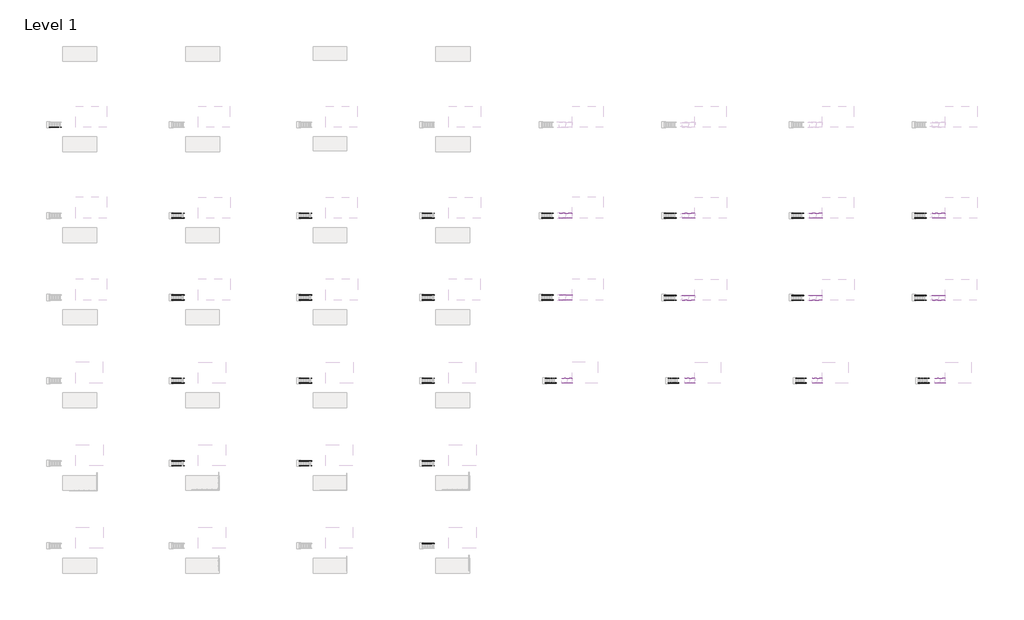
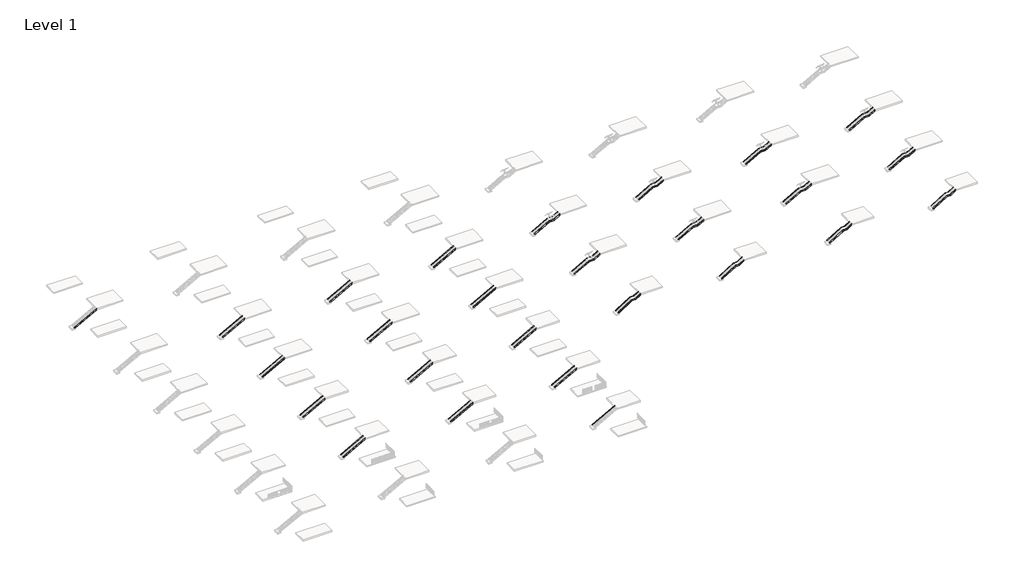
# One storey, part 25 of 26: 98 members.
"""IFC4 building model written with IfcOpenShell, lengths in millimetres."""

from ifc_helpers import new_model, si_unit, frame, origin, place, context, project, spatial, polyline, outline, extrude, element, save

model = new_model("IFC4")

# Units and contexts
model_context = context("Model", 3, world=origin())
ifc_project = project(units=[si_unit("LENGTHUNIT", "METRE", prefix="MILLI")], contexts=[model_context])

# Site, building, storey
site = spatial("IfcSite", under=ifc_project)
building = spatial("IfcBuilding", under=site)
storey = spatial("IfcBuildingStorey", under=building, Name="Level 1", Elevation=0.0)

# Members
placement = place(None, origin())
element("IfcMember", 1, ObjectType="Stringer - 2\" Width", at=placement, inside=storey, context=model_context, shape_type="SweptSolid", body=[
    extrude(outline(polyline([(177.1989729, -14498.2569957), (0.0, -14498.2569957), (0.0, -14213.1213612), (2753.9260175, -9164.2569957), (3086.6535184, -9164.2569957), (177.1989729, -14498.2569957)])), frame((0.0, 15795.2395941, 0.0), z_axis=(0.0, 1.0, 0.0), x_axis=(0.0, 0.0, 1.0)), (0.0, 0.0, 1.0), 50.8),
])
element("IfcMember", 2, ObjectType="Stringer - 2\" Width", at=placement, inside=storey, context=model_context, shape_type="SweptSolid", body=[
    extrude(outline(polyline([(177.1989729, 10178.7167764), (0.0, 10178.7167764), (0.0, 10463.8524109), (2753.9260175, 15512.7167764), (3086.6535184, 15512.7167764), (177.1989729, 10178.7167764)])), frame((0.0, -51279.2426165, 0.0), z_axis=(0.0, 1.0, 0.0), x_axis=(0.0, 0.0, 1.0)), (0.0, 0.0, 1.0), 50.8),
])
element("IfcMember", 3, ObjectType="Stringer - 2\" Width", at=placement, inside=storey, context=model_context, shape_type="SweptSolid", body=[
    extrude(outline(polyline([(177.1989729, 10178.7167764), (0.0, 10178.7167764), (0.0, 10463.8524109), (2753.9260175, 15512.7167764), (3086.6535184, 15512.7167764), (177.1989729, 10178.7167764)])), frame((0.0, -52244.4426165, 0.0), z_axis=(0.0, 1.0, 0.0), x_axis=(0.0, 0.0, 1.0)), (0.0, 0.0, 1.0), 50.8),
])
element("IfcMember", 4, ObjectType="Stringer - 2\" Width", at=placement, inside=storey, context=model_context, shape_type="SweptSolid", body=[
    extrude(outline(polyline([(177.1989729, 10178.7167764), (0.0, 10178.7167764), (0.0, 10463.8524109), (2753.9260175, 15512.7167764), (3086.6535184, 15512.7167764), (177.1989729, 10178.7167764)])), frame((0.0, -34679.081782, 0.0), z_axis=(0.0, 1.0, 0.0), x_axis=(0.0, 0.0, 1.0)), (0.0, 0.0, 1.0), 50.8),
])
element("IfcMember", 5, ObjectType="Stringer - 2\" Width", at=placement, inside=storey, context=model_context, shape_type="SweptSolid", body=[
    extrude(outline(polyline([(177.1989729, 10178.7167764), (0.0, 10178.7167764), (0.0, 10463.8524109), (2753.9260175, 15512.7167764), (3086.6535184, 15512.7167764), (177.1989729, 10178.7167764)])), frame((0.0, -35644.281782, 0.0), z_axis=(0.0, 1.0, 0.0), x_axis=(0.0, 0.0, 1.0)), (0.0, 0.0, 1.0), 50.8),
])
element("IfcMember", 6, ObjectType="Stringer - 2\" Width", at=placement, inside=storey, context=model_context, shape_type="SweptSolid", body=[
    extrude(outline(polyline([(177.1989729, 10178.7167764), (0.0, 10178.7167764), (0.0, 10463.8524109), (2753.9260175, 15512.7167764), (3086.6535184, 15512.7167764), (177.1989729, 10178.7167764)])), frame((0.0, -17954.2990002, 0.0), z_axis=(0.0, 1.0, 0.0), x_axis=(0.0, 0.0, 1.0)), (0.0, 0.0, 1.0), 50.8),
])
element("IfcMember", 7, ObjectType="Stringer - 2\" Width", at=placement, inside=storey, context=model_context, shape_type="SweptSolid", body=[
    extrude(outline(polyline([(177.1989729, 10178.7167764), (0.0, 10178.7167764), (0.0, 10463.8524109), (2753.9260175, 15512.7167764), (3086.6535184, 15512.7167764), (177.1989729, 10178.7167764)])), frame((0.0, -18919.4990002, 0.0), z_axis=(0.0, 1.0, 0.0), x_axis=(0.0, 0.0, 1.0)), (0.0, 0.0, 1.0), 50.8),
])
element("IfcMember", 8, ObjectType="Stringer - 2\" Width", at=placement, inside=storey, context=model_context, shape_type="SweptSolid", body=[
    extrude(outline(polyline([(177.1989729, 10178.7167764), (0.0, 10178.7167764), (0.0, 10463.8524109), (2753.9260175, 15512.7167764), (3086.6535184, 15512.7167764), (177.1989729, 10178.7167764)])), frame((0.0, -1486.3855758, 0.0), z_axis=(0.0, 1.0, 0.0), x_axis=(0.0, 0.0, 1.0)), (0.0, 0.0, 1.0), 50.8),
])
element("IfcMember", 9, ObjectType="Stringer - 2\" Width", at=placement, inside=storey, context=model_context, shape_type="SweptSolid", body=[
    extrude(outline(polyline([(177.1989729, 10178.7167764), (0.0, 10178.7167764), (0.0, 10463.8524109), (2753.9260175, 15512.7167764), (3086.6535184, 15512.7167764), (177.1989729, 10178.7167764)])), frame((0.0, -2451.5855758, 0.0), z_axis=(0.0, 1.0, 0.0), x_axis=(0.0, 0.0, 1.0)), (0.0, 0.0, 1.0), 50.8),
])
element("IfcMember", 10, ObjectType="Stringer - 2\" Width", at=placement, inside=storey, context=model_context, shape_type="SweptSolid", body=[
    extrude(outline(polyline([(177.1989729, 35781.9167764), (0.0, 35781.9167764), (0.0, 36067.0524109), (2753.9260175, 41115.9167764), (3086.6535184, 41115.9167764), (177.1989729, 35781.9167764)])), frame((0.0, -51279.2426165, 0.0), z_axis=(0.0, 1.0, 0.0), x_axis=(0.0, 0.0, 1.0)), (0.0, 0.0, 1.0), 50.8),
])
element("IfcMember", 11, ObjectType="Stringer - 2\" Width", at=placement, inside=storey, context=model_context, shape_type="SweptSolid", body=[
    extrude(outline(polyline([(177.1989729, 35781.9167764), (0.0, 35781.9167764), (0.0, 36067.0524109), (2753.9260175, 41115.9167764), (3086.6535184, 41115.9167764), (177.1989729, 35781.9167764)])), frame((0.0, -52244.4426165, 0.0), z_axis=(0.0, 1.0, 0.0), x_axis=(0.0, 0.0, 1.0)), (0.0, 0.0, 1.0), 50.8),
])
element("IfcMember", 12, ObjectType="Stringer - 2\" Width", at=placement, inside=storey, context=model_context, shape_type="SweptSolid", body=[
    extrude(outline(polyline([(177.1989729, 35781.9167764), (0.0, 35781.9167764), (0.0, 36067.0524109), (2753.9260175, 41115.9167764), (3086.6535184, 41115.9167764), (177.1989729, 35781.9167764)])), frame((0.0, -34679.081782, 0.0), z_axis=(0.0, 1.0, 0.0), x_axis=(0.0, 0.0, 1.0)), (0.0, 0.0, 1.0), 50.8),
])
element("IfcMember", 13, ObjectType="Stringer - 2\" Width", at=placement, inside=storey, context=model_context, shape_type="SweptSolid", body=[
    extrude(outline(polyline([(177.1989729, 35781.9167764), (0.0, 35781.9167764), (0.0, 36067.0524109), (2753.9260175, 41115.9167764), (3086.6535184, 41115.9167764), (177.1989729, 35781.9167764)])), frame((0.0, -35644.281782, 0.0), z_axis=(0.0, 1.0, 0.0), x_axis=(0.0, 0.0, 1.0)), (0.0, 0.0, 1.0), 50.8),
])
element("IfcMember", 14, ObjectType="Stringer - 2\" Width", at=placement, inside=storey, context=model_context, shape_type="SweptSolid", body=[
    extrude(outline(polyline([(177.1989729, 35781.9167764), (0.0, 35781.9167764), (0.0, 36067.0524109), (2753.9260175, 41115.9167764), (3086.6535184, 41115.9167764), (177.1989729, 35781.9167764)])), frame((0.0, -17954.2990002, 0.0), z_axis=(0.0, 1.0, 0.0), x_axis=(0.0, 0.0, 1.0)), (0.0, 0.0, 1.0), 50.8),
])
element("IfcMember", 15, ObjectType="Stringer - 2\" Width", at=placement, inside=storey, context=model_context, shape_type="SweptSolid", body=[
    extrude(outline(polyline([(177.1989729, 35781.9167764), (0.0, 35781.9167764), (0.0, 36067.0524109), (2753.9260175, 41115.9167764), (3086.6535184, 41115.9167764), (177.1989729, 35781.9167764)])), frame((0.0, -18919.4990002, 0.0), z_axis=(0.0, 1.0, 0.0), x_axis=(0.0, 0.0, 1.0)), (0.0, 0.0, 1.0), 50.8),
])
element("IfcMember", 16, ObjectType="Stringer - 2\" Width", at=placement, inside=storey, context=model_context, shape_type="SweptSolid", body=[
    extrude(outline(polyline([(177.1989729, 35781.9167764), (0.0, 35781.9167764), (0.0, 36067.0524109), (2753.9260175, 41115.9167764), (3086.6535184, 41115.9167764), (177.1989729, 35781.9167764)])), frame((0.0, -1486.3855758, 0.0), z_axis=(0.0, 1.0, 0.0), x_axis=(0.0, 0.0, 1.0)), (0.0, 0.0, 1.0), 50.8),
])
element("IfcMember", 17, ObjectType="Stringer - 2\" Width", at=placement, inside=storey, context=model_context, shape_type="SweptSolid", body=[
    extrude(outline(polyline([(177.1989729, 35781.9167764), (0.0, 35781.9167764), (0.0, 36067.0524109), (2753.9260175, 41115.9167764), (3086.6535184, 41115.9167764), (177.1989729, 35781.9167764)])), frame((0.0, -2451.5855758, 0.0), z_axis=(0.0, 1.0, 0.0), x_axis=(0.0, 0.0, 1.0)), (0.0, 0.0, 1.0), 50.8),
])
element("IfcMember", 18, ObjectType="Stringer - 2\" Width", at=placement, inside=storey, context=model_context, shape_type="SweptSolid", body=[
    extrude(outline(polyline([(177.1989729, 60458.8905484), (0.0, 60458.8905484), (0.0, 60744.026183), (2753.9260175, 65792.8905484), (3086.6535184, 65792.8905484), (177.1989729, 60458.8905484)])), frame((0.0, -67879.4034511, 0.0), z_axis=(0.0, 1.0, 0.0), x_axis=(0.0, 0.0, 1.0)), (0.0, 0.0, 1.0), 50.8),
])
element("IfcMember", 19, ObjectType="Stringer - 2\" Width", at=placement, inside=storey, context=model_context, shape_type="SweptSolid", body=[
    extrude(outline(polyline([(177.1989729, 60458.8905484), (0.0, 60458.8905484), (0.0, 60744.026183), (2753.9260175, 65792.8905484), (3086.6535184, 65792.8905484), (177.1989729, 60458.8905484)])), frame((0.0, -51279.2426165, 0.0), z_axis=(0.0, 1.0, 0.0), x_axis=(0.0, 0.0, 1.0)), (0.0, 0.0, 1.0), 50.8),
])
element("IfcMember", 20, ObjectType="Stringer - 2\" Width", at=placement, inside=storey, context=model_context, shape_type="SweptSolid", body=[
    extrude(outline(polyline([(177.1989729, 60458.8905484), (0.0, 60458.8905484), (0.0, 60744.026183), (2753.9260175, 65792.8905484), (3086.6535184, 65792.8905484), (177.1989729, 60458.8905484)])), frame((0.0, -52244.4426165, 0.0), z_axis=(0.0, 1.0, 0.0), x_axis=(0.0, 0.0, 1.0)), (0.0, 0.0, 1.0), 50.8),
])
element("IfcMember", 21, ObjectType="Stringer - 2\" Width", at=placement, inside=storey, context=model_context, shape_type="SweptSolid", body=[
    extrude(outline(polyline([(177.1989729, 60458.8905484), (0.0, 60458.8905484), (0.0, 60744.026183), (2753.9260175, 65792.8905484), (3086.6535184, 65792.8905484), (177.1989729, 60458.8905484)])), frame((0.0, -34679.081782, 0.0), z_axis=(0.0, 1.0, 0.0), x_axis=(0.0, 0.0, 1.0)), (0.0, 0.0, 1.0), 50.8),
])
element("IfcMember", 22, ObjectType="Stringer - 2\" Width", at=placement, inside=storey, context=model_context, shape_type="SweptSolid", body=[
    extrude(outline(polyline([(177.1989729, 60458.8905484), (0.0, 60458.8905484), (0.0, 60744.026183), (2753.9260175, 65792.8905484), (3086.6535184, 65792.8905484), (177.1989729, 60458.8905484)])), frame((0.0, -35644.281782, 0.0), z_axis=(0.0, 1.0, 0.0), x_axis=(0.0, 0.0, 1.0)), (0.0, 0.0, 1.0), 50.8),
])
element("IfcMember", 23, ObjectType="Stringer - 2\" Width", at=placement, inside=storey, context=model_context, shape_type="SweptSolid", body=[
    extrude(outline(polyline([(177.1989729, 60458.8905484), (0.0, 60458.8905484), (0.0, 60744.026183), (2753.9260175, 65792.8905484), (3086.6535184, 65792.8905484), (177.1989729, 60458.8905484)])), frame((0.0, -17954.2990002, 0.0), z_axis=(0.0, 1.0, 0.0), x_axis=(0.0, 0.0, 1.0)), (0.0, 0.0, 1.0), 50.8),
])
element("IfcMember", 24, ObjectType="Stringer - 2\" Width", at=placement, inside=storey, context=model_context, shape_type="SweptSolid", body=[
    extrude(outline(polyline([(177.1989729, 60458.8905484), (0.0, 60458.8905484), (0.0, 60744.026183), (2753.9260175, 65792.8905484), (3086.6535184, 65792.8905484), (177.1989729, 60458.8905484)])), frame((0.0, -18919.4990002, 0.0), z_axis=(0.0, 1.0, 0.0), x_axis=(0.0, 0.0, 1.0)), (0.0, 0.0, 1.0), 50.8),
])
element("IfcMember", 25, ObjectType="Stringer - 2\" Width", at=placement, inside=storey, context=model_context, shape_type="SweptSolid", body=[
    extrude(outline(polyline([(177.1989729, 60458.8905484), (0.0, 60458.8905484), (0.0, 60744.026183), (2753.9260175, 65792.8905484), (3086.6535184, 65792.8905484), (177.1989729, 60458.8905484)])), frame((0.0, -1486.3855758, 0.0), z_axis=(0.0, 1.0, 0.0), x_axis=(0.0, 0.0, 1.0)), (0.0, 0.0, 1.0), 50.8),
])
element("IfcMember", 26, ObjectType="Stringer - 2\" Width", at=placement, inside=storey, context=model_context, shape_type="SweptSolid", body=[
    extrude(outline(polyline([(177.1989729, 60458.8905484), (0.0, 60458.8905484), (0.0, 60744.026183), (2753.9260175, 65792.8905484), (3086.6535184, 65792.8905484), (177.1989729, 60458.8905484)])), frame((0.0, -2451.5855758, 0.0), z_axis=(0.0, 1.0, 0.0), x_axis=(0.0, 0.0, 1.0)), (0.0, 0.0, 1.0), 50.8),
])
element("IfcMember", 27, ObjectType="Stringer - 2\" Width", at=placement, inside=storey, context=model_context, shape_type="SweptSolid", body=[
    extrude(outline(polyline([(179.6072535, 84469.1145262), (0.0, 84469.1145262), (0.0, 84743.5482046), (1916.7928571, 88097.9357046), (2208.8928571, 88020.3643326), (179.6072535, 84469.1145262)])), frame((0.0, -17954.2990002, 0.0), z_axis=(0.0, 1.0, 0.0), x_axis=(0.0, 0.0, 1.0)), (0.0, 0.0, 1.0), 50.8),
])
element("IfcMember", 28, ObjectType="Stringer - 2\" Width", at=placement, inside=storey, context=model_context, shape_type="SweptSolid", body=[
    extrude(outline(polyline([(179.6072535, 84469.1145262), (0.0, 84469.1145262), (0.0, 84743.5482046), (1916.7928571, 88097.9357046), (2208.8928571, 88020.3643326), (179.6072535, 84469.1145262)])), frame((0.0, -18919.4990002, 0.0), z_axis=(0.0, 1.0, 0.0), x_axis=(0.0, 0.0, 1.0)), (0.0, 0.0, 1.0), 50.8),
])
element("IfcMember", 29, ObjectType="Stringer - 2\" Width", at=placement, inside=storey, context=model_context, shape_type="SweptSolid", body=[
    extrude(outline(polyline([(2208.8928571, 89087.1643326), (1916.7928571, 89164.7357046), (2746.037898, 90615.9145262), (3048.0, 90615.9145262), (3048.0, 90555.6018326), (2208.8928571, 89087.1643326)])), frame((0.0, -17954.2990002, 0.0), z_axis=(0.0, 1.0, 0.0), x_axis=(0.0, 0.0, 1.0)), (0.0, 0.0, 1.0), 50.8),
])
element("IfcMember", 30, ObjectType="Stringer - 2\" Width", at=placement, inside=storey, context=model_context, shape_type="SweptSolid", body=[
    extrude(outline(polyline([(2208.8928571, 89087.1643326), (1916.7928571, 89164.7357046), (2746.037898, 90615.9145262), (3048.0, 90615.9145262), (3048.0, 90555.6018326), (2208.8928571, 89087.1643326)])), frame((0.0, -18919.4990002, 0.0), z_axis=(0.0, 1.0, 0.0), x_axis=(0.0, 0.0, 1.0)), (0.0, 0.0, 1.0), 50.8),
])
element("IfcMember", 31, ObjectType="Stringer - 2\" Width", at=placement, inside=storey, context=model_context, shape_type="SweptSolid", body=[
    extrude(outline(polyline([(1916.7928571, 89164.7357046), (2208.8928571, 89087.1643326), (2208.8928571, 88020.3643326), (1916.7928571, 88097.9357046), (1916.7928571, 89164.7357046)])), frame((0.0, -17954.2990002, 0.0), z_axis=(0.0, 1.0, 0.0), x_axis=(0.0, 0.0, 1.0)), (0.0, 0.0, 1.0), 50.8),
])
element("IfcMember", 32, ObjectType="Stringer - 2\" Width", at=placement, inside=storey, context=model_context, shape_type="SweptSolid", body=[
    extrude(outline(polyline([(2208.8928571, 88020.3643326), (1916.7928571, 88097.9357046), (1916.7928571, 89164.7357046), (2208.8928571, 89087.1643326), (2208.8928571, 88020.3643326)])), frame((0.0, -18919.4990002, 0.0), z_axis=(0.0, 1.0, 0.0), x_axis=(0.0, 0.0, 1.0)), (0.0, 0.0, 1.0), 50.8),
])
element("IfcMember", 33, ObjectType="Stringer - 2\" Width", at=placement, inside=storey, context=model_context, shape_type="SweptSolid", body=[
    extrude(outline(polyline([(179.6072535, 84469.1145262), (0.0, 84469.1145262), (0.0, 84743.5482046), (1916.7928571, 88097.9357046), (2208.8928571, 88020.3643326), (179.6072535, 84469.1145262)])), frame((0.0, -1486.3855758, 0.0), z_axis=(0.0, 1.0, 0.0), x_axis=(0.0, 0.0, 1.0)), (0.0, 0.0, 1.0), 50.8),
])
element("IfcMember", 34, ObjectType="Stringer - 2\" Width", at=placement, inside=storey, context=model_context, shape_type="SweptSolid", body=[
    extrude(outline(polyline([(179.6072535, 84469.1145262), (0.0, 84469.1145262), (0.0, 84743.5482046), (1916.7928571, 88097.9357046), (2208.8928571, 88020.3643326), (179.6072535, 84469.1145262)])), frame((0.0, -2451.5855758, 0.0), z_axis=(0.0, 1.0, 0.0), x_axis=(0.0, 0.0, 1.0)), (0.0, 0.0, 1.0), 50.8),
])
element("IfcMember", 35, ObjectType="Stringer - 2\" Width", at=placement, inside=storey, context=model_context, shape_type="SweptSolid", body=[
    extrude(outline(polyline([(2208.8928571, 89087.1643326), (1916.7928571, 89164.7357046), (2746.037898, 90615.9145262), (3048.0, 90615.9145262), (3048.0, 90555.6018326), (2208.8928571, 89087.1643326)])), frame((0.0, -1486.3855758, 0.0), z_axis=(0.0, 1.0, 0.0), x_axis=(0.0, 0.0, 1.0)), (0.0, 0.0, 1.0), 50.8),
])
element("IfcMember", 36, ObjectType="Stringer - 2\" Width", at=placement, inside=storey, context=model_context, shape_type="SweptSolid", body=[
    extrude(outline(polyline([(2208.8928571, 89087.1643326), (1916.7928571, 89164.7357046), (2746.037898, 90615.9145262), (3048.0, 90615.9145262), (3048.0, 90555.6018326), (2208.8928571, 89087.1643326)])), frame((0.0, -2451.5855758, 0.0), z_axis=(0.0, 1.0, 0.0), x_axis=(0.0, 0.0, 1.0)), (0.0, 0.0, 1.0), 50.8),
])
element("IfcMember", 37, ObjectType="Stringer - 2\" Width", at=placement, inside=storey, context=model_context, shape_type="SweptSolid", body=[
    extrude(outline(polyline([(1916.7928571, 89164.7357046), (2208.8928571, 89087.1643326), (2208.8928571, 88020.3643326), (1916.7928571, 88097.9357046), (1916.7928571, 89164.7357046)])), frame((0.0, -1486.3855758, 0.0), z_axis=(0.0, 1.0, 0.0), x_axis=(0.0, 0.0, 1.0)), (0.0, 0.0, 1.0), 50.8),
])
element("IfcMember", 38, ObjectType="Stringer - 2\" Width", at=placement, inside=storey, context=model_context, shape_type="SweptSolid", body=[
    extrude(outline(polyline([(2208.8928571, 88020.3643326), (1916.7928571, 88097.9357046), (1916.7928571, 89164.7357046), (2208.8928571, 89087.1643326), (2208.8928571, 88020.3643326)])), frame((0.0, -2451.5855758, 0.0), z_axis=(0.0, 1.0, 0.0), x_axis=(0.0, 0.0, 1.0)), (0.0, 0.0, 1.0), 50.8),
])
element("IfcMember", 39, ObjectType="Stringer - 2\" Width", at=placement, inside=storey, context=model_context, shape_type="SweptSolid", body=[
    extrude(outline(polyline([(179.6072535, 109146.0882982), (0.0, 109146.0882982), (0.0, 109420.5219767), (1916.7928571, 112774.9094767), (2208.8928571, 112697.3381046), (179.6072535, 109146.0882982)])), frame((0.0, -18034.2120358, 0.0), z_axis=(0.0, 1.0, 0.0), x_axis=(0.0, 0.0, 1.0)), (0.0, 0.0, 1.0), 50.8),
])
element("IfcMember", 40, ObjectType="Stringer - 2\" Width", at=placement, inside=storey, context=model_context, shape_type="SweptSolid", body=[
    extrude(outline(polyline([(179.6072535, 109146.0882982), (0.0, 109146.0882982), (0.0, 109420.5219767), (1916.7928571, 112774.9094767), (2208.8928571, 112697.3381046), (179.6072535, 109146.0882982)])), frame((0.0, -18999.4120358, 0.0), z_axis=(0.0, 1.0, 0.0), x_axis=(0.0, 0.0, 1.0)), (0.0, 0.0, 1.0), 50.8),
])
element("IfcMember", 41, ObjectType="Stringer - 2\" Width", at=placement, inside=storey, context=model_context, shape_type="SweptSolid", body=[
    extrude(outline(polyline([(2208.8928571, 113764.1381046), (1916.7928571, 113841.7094767), (2746.037898, 115292.8882982), (3048.0, 115292.8882982), (3048.0, 115232.5756046), (2208.8928571, 113764.1381046)])), frame((0.0, -18034.2120358, 0.0), z_axis=(0.0, 1.0, 0.0), x_axis=(0.0, 0.0, 1.0)), (0.0, 0.0, 1.0), 50.8),
])
element("IfcMember", 42, ObjectType="Stringer - 2\" Width", at=placement, inside=storey, context=model_context, shape_type="SweptSolid", body=[
    extrude(outline(polyline([(2208.8928571, 113764.1381046), (1916.7928571, 113841.7094767), (2746.037898, 115292.8882982), (3048.0, 115292.8882982), (3048.0, 115232.5756046), (2208.8928571, 113764.1381046)])), frame((0.0, -18999.4120358, 0.0), z_axis=(0.0, 1.0, 0.0), x_axis=(0.0, 0.0, 1.0)), (0.0, 0.0, 1.0), 50.8),
])
element("IfcMember", 43, ObjectType="Stringer - 2\" Width", at=placement, inside=storey, context=model_context, shape_type="SweptSolid", body=[
    extrude(outline(polyline([(1916.7928571, 113841.7094767), (2208.8928571, 113764.1381046), (2208.8928571, 112697.3381046), (1916.7928571, 112774.9094767), (1916.7928571, 113841.7094767)])), frame((0.0, -18034.2120358, 0.0), z_axis=(0.0, 1.0, 0.0), x_axis=(0.0, 0.0, 1.0)), (0.0, 0.0, 1.0), 50.8),
])
element("IfcMember", 44, ObjectType="Stringer - 2\" Width", at=placement, inside=storey, context=model_context, shape_type="SweptSolid", body=[
    extrude(outline(polyline([(2208.8928571, 112697.3381046), (1916.7928571, 112774.9094767), (1916.7928571, 113841.7094767), (2208.8928571, 113764.1381046), (2208.8928571, 112697.3381046)])), frame((0.0, -18999.4120358, 0.0), z_axis=(0.0, 1.0, 0.0), x_axis=(0.0, 0.0, 1.0)), (0.0, 0.0, 1.0), 50.8),
])
element("IfcMember", 45, ObjectType="Stringer - 2\" Width", at=placement, inside=storey, context=model_context, shape_type="SweptSolid", body=[
    extrude(outline(polyline([(179.6072535, 109146.0882982), (0.0, 109146.0882982), (0.0, 109420.5219767), (1916.7928571, 112774.9094767), (2208.8928571, 112697.3381046), (179.6072535, 109146.0882982)])), frame((0.0, -1515.4986114, 0.0), z_axis=(0.0, 1.0, 0.0), x_axis=(0.0, 0.0, 1.0)), (0.0, 0.0, 1.0), 50.8),
])
element("IfcMember", 46, ObjectType="Stringer - 2\" Width", at=placement, inside=storey, context=model_context, shape_type="SweptSolid", body=[
    extrude(outline(polyline([(179.6072535, 109146.0882982), (0.0, 109146.0882982), (0.0, 109420.5219767), (1916.7928571, 112774.9094767), (2208.8928571, 112697.3381046), (179.6072535, 109146.0882982)])), frame((0.0, -2480.6986114, 0.0), z_axis=(0.0, 1.0, 0.0), x_axis=(0.0, 0.0, 1.0)), (0.0, 0.0, 1.0), 50.8),
])
element("IfcMember", 47, ObjectType="Stringer - 2\" Width", at=placement, inside=storey, context=model_context, shape_type="SweptSolid", body=[
    extrude(outline(polyline([(2208.8928571, 113764.1381046), (1916.7928571, 113841.7094767), (2746.037898, 115292.8882982), (3048.0, 115292.8882982), (3048.0, 115232.5756046), (2208.8928571, 113764.1381046)])), frame((0.0, -1515.4986114, 0.0), z_axis=(0.0, 1.0, 0.0), x_axis=(0.0, 0.0, 1.0)), (0.0, 0.0, 1.0), 50.8),
])
element("IfcMember", 48, ObjectType="Stringer - 2\" Width", at=placement, inside=storey, context=model_context, shape_type="SweptSolid", body=[
    extrude(outline(polyline([(2208.8928571, 113764.1381046), (1916.7928571, 113841.7094767), (2746.037898, 115292.8882982), (3048.0, 115292.8882982), (3048.0, 115232.5756046), (2208.8928571, 113764.1381046)])), frame((0.0, -2480.6986114, 0.0), z_axis=(0.0, 1.0, 0.0), x_axis=(0.0, 0.0, 1.0)), (0.0, 0.0, 1.0), 50.8),
])
element("IfcMember", 49, ObjectType="Stringer - 2\" Width", at=placement, inside=storey, context=model_context, shape_type="SweptSolid", body=[
    extrude(outline(polyline([(1916.7928571, 113841.7094767), (2208.8928571, 113764.1381046), (2208.8928571, 112697.3381046), (1916.7928571, 112774.9094767), (1916.7928571, 113841.7094767)])), frame((0.0, -1515.4986114, 0.0), z_axis=(0.0, 1.0, 0.0), x_axis=(0.0, 0.0, 1.0)), (0.0, 0.0, 1.0), 50.8),
])
element("IfcMember", 50, ObjectType="Stringer - 2\" Width", at=placement, inside=storey, context=model_context, shape_type="SweptSolid", body=[
    extrude(outline(polyline([(2208.8928571, 112697.3381046), (1916.7928571, 112774.9094767), (1916.7928571, 113841.7094767), (2208.8928571, 113764.1381046), (2208.8928571, 112697.3381046)])), frame((0.0, -2480.6986114, 0.0), z_axis=(0.0, 1.0, 0.0), x_axis=(0.0, 0.0, 1.0)), (0.0, 0.0, 1.0), 50.8),
])
element("IfcMember", 51, ObjectType="Stringer - 2\" Width", at=placement, inside=storey, context=model_context, shape_type="SweptSolid", body=[
    extrude(outline(polyline([(179.6072535, 134749.2882982), (0.0, 134749.2882982), (0.0, 135023.7219767), (1916.7928571, 138378.1094767), (2208.8928571, 138300.5381046), (179.6072535, 134749.2882982)])), frame((0.0, -18034.2120358, 0.0), z_axis=(0.0, 1.0, 0.0), x_axis=(0.0, 0.0, 1.0)), (0.0, 0.0, 1.0), 50.8),
])
element("IfcMember", 52, ObjectType="Stringer - 2\" Width", at=placement, inside=storey, context=model_context, shape_type="SweptSolid", body=[
    extrude(outline(polyline([(179.6072535, 134749.2882982), (0.0, 134749.2882982), (0.0, 135023.7219767), (1916.7928571, 138378.1094767), (2208.8928571, 138300.5381046), (179.6072535, 134749.2882982)])), frame((0.0, -18999.4120358, 0.0), z_axis=(0.0, 1.0, 0.0), x_axis=(0.0, 0.0, 1.0)), (0.0, 0.0, 1.0), 50.8),
])
element("IfcMember", 53, ObjectType="Stringer - 2\" Width", at=placement, inside=storey, context=model_context, shape_type="SweptSolid", body=[
    extrude(outline(polyline([(2208.8928571, 139367.3381046), (1916.7928571, 139444.9094767), (2746.037898, 140896.0882982), (3048.0, 140896.0882982), (3048.0, 140835.7756046), (2208.8928571, 139367.3381046)])), frame((0.0, -18034.2120358, 0.0), z_axis=(0.0, 1.0, 0.0), x_axis=(0.0, 0.0, 1.0)), (0.0, 0.0, 1.0), 50.8),
])
element("IfcMember", 54, ObjectType="Stringer - 2\" Width", at=placement, inside=storey, context=model_context, shape_type="SweptSolid", body=[
    extrude(outline(polyline([(2208.8928571, 139367.3381046), (1916.7928571, 139444.9094767), (2746.037898, 140896.0882982), (3048.0, 140896.0882982), (3048.0, 140835.7756046), (2208.8928571, 139367.3381046)])), frame((0.0, -18999.4120358, 0.0), z_axis=(0.0, 1.0, 0.0), x_axis=(0.0, 0.0, 1.0)), (0.0, 0.0, 1.0), 50.8),
])
element("IfcMember", 55, ObjectType="Stringer - 2\" Width", at=placement, inside=storey, context=model_context, shape_type="SweptSolid", body=[
    extrude(outline(polyline([(1916.7928571, 139444.9094767), (2208.8928571, 139367.3381046), (2208.8928571, 138300.5381046), (1916.7928571, 138378.1094767), (1916.7928571, 139444.9094767)])), frame((0.0, -18034.2120358, 0.0), z_axis=(0.0, 1.0, 0.0), x_axis=(0.0, 0.0, 1.0)), (0.0, 0.0, 1.0), 50.8),
])
element("IfcMember", 56, ObjectType="Stringer - 2\" Width", at=placement, inside=storey, context=model_context, shape_type="SweptSolid", body=[
    extrude(outline(polyline([(2208.8928571, 138300.5381046), (1916.7928571, 138378.1094767), (1916.7928571, 139444.9094767), (2208.8928571, 139367.3381046), (2208.8928571, 138300.5381046)])), frame((0.0, -18999.4120358, 0.0), z_axis=(0.0, 1.0, 0.0), x_axis=(0.0, 0.0, 1.0)), (0.0, 0.0, 1.0), 50.8),
])
element("IfcMember", 57, ObjectType="Stringer - 2\" Width", at=placement, inside=storey, context=model_context, shape_type="SweptSolid", body=[
    extrude(outline(polyline([(179.6072535, 134749.2882982), (0.0, 134749.2882982), (0.0, 135023.7219767), (1916.7928571, 138378.1094767), (2208.8928571, 138300.5381046), (179.6072535, 134749.2882982)])), frame((0.0, -1515.4986114, 0.0), z_axis=(0.0, 1.0, 0.0), x_axis=(0.0, 0.0, 1.0)), (0.0, 0.0, 1.0), 50.8),
])
element("IfcMember", 58, ObjectType="Stringer - 2\" Width", at=placement, inside=storey, context=model_context, shape_type="SweptSolid", body=[
    extrude(outline(polyline([(179.6072535, 134749.2882982), (0.0, 134749.2882982), (0.0, 135023.7219767), (1916.7928571, 138378.1094767), (2208.8928571, 138300.5381046), (179.6072535, 134749.2882982)])), frame((0.0, -2480.6986114, 0.0), z_axis=(0.0, 1.0, 0.0), x_axis=(0.0, 0.0, 1.0)), (0.0, 0.0, 1.0), 50.8),
])
element("IfcMember", 59, ObjectType="Stringer - 2\" Width", at=placement, inside=storey, context=model_context, shape_type="SweptSolid", body=[
    extrude(outline(polyline([(2208.8928571, 139367.3381046), (1916.7928571, 139444.9094767), (2746.037898, 140896.0882982), (3048.0, 140896.0882982), (3048.0, 140835.7756046), (2208.8928571, 139367.3381046)])), frame((0.0, -1515.4986114, 0.0), z_axis=(0.0, 1.0, 0.0), x_axis=(0.0, 0.0, 1.0)), (0.0, 0.0, 1.0), 50.8),
])
element("IfcMember", 60, ObjectType="Stringer - 2\" Width", at=placement, inside=storey, context=model_context, shape_type="SweptSolid", body=[
    extrude(outline(polyline([(2208.8928571, 139367.3381046), (1916.7928571, 139444.9094767), (2746.037898, 140896.0882982), (3048.0, 140896.0882982), (3048.0, 140835.7756046), (2208.8928571, 139367.3381046)])), frame((0.0, -2480.6986114, 0.0), z_axis=(0.0, 1.0, 0.0), x_axis=(0.0, 0.0, 1.0)), (0.0, 0.0, 1.0), 50.8),
])
element("IfcMember", 61, ObjectType="Stringer - 2\" Width", at=placement, inside=storey, context=model_context, shape_type="SweptSolid", body=[
    extrude(outline(polyline([(1916.7928571, 139444.9094767), (2208.8928571, 139367.3381046), (2208.8928571, 138300.5381046), (1916.7928571, 138378.1094767), (1916.7928571, 139444.9094767)])), frame((0.0, -1515.4986114, 0.0), z_axis=(0.0, 1.0, 0.0), x_axis=(0.0, 0.0, 1.0)), (0.0, 0.0, 1.0), 50.8),
])
element("IfcMember", 62, ObjectType="Stringer - 2\" Width", at=placement, inside=storey, context=model_context, shape_type="SweptSolid", body=[
    extrude(outline(polyline([(2208.8928571, 138300.5381046), (1916.7928571, 138378.1094767), (1916.7928571, 139444.9094767), (2208.8928571, 139367.3381046), (2208.8928571, 138300.5381046)])), frame((0.0, -2480.6986114, 0.0), z_axis=(0.0, 1.0, 0.0), x_axis=(0.0, 0.0, 1.0)), (0.0, 0.0, 1.0), 50.8),
])
element("IfcMember", 63, ObjectType="Stringer - 2\" Width", at=placement, inside=storey, context=model_context, shape_type="SweptSolid", body=[
    extrude(outline(polyline([(179.6072535, 159426.2620703), (0.0, 159426.2620703), (0.0, 159700.6957488), (1916.7928571, 163055.0832488), (2208.8928571, 162977.5118767), (179.6072535, 159426.2620703)])), frame((0.0, -18034.2120358, 0.0), z_axis=(0.0, 1.0, 0.0), x_axis=(0.0, 0.0, 1.0)), (0.0, 0.0, 1.0), 50.8),
])
element("IfcMember", 64, ObjectType="Stringer - 2\" Width", at=placement, inside=storey, context=model_context, shape_type="SweptSolid", body=[
    extrude(outline(polyline([(179.6072535, 159426.2620703), (0.0, 159426.2620703), (0.0, 159700.6957488), (1916.7928571, 163055.0832488), (2208.8928571, 162977.5118767), (179.6072535, 159426.2620703)])), frame((0.0, -18999.4120358, 0.0), z_axis=(0.0, 1.0, 0.0), x_axis=(0.0, 0.0, 1.0)), (0.0, 0.0, 1.0), 50.8),
])
element("IfcMember", 65, ObjectType="Stringer - 2\" Width", at=placement, inside=storey, context=model_context, shape_type="SweptSolid", body=[
    extrude(outline(polyline([(2208.8928571, 164044.3118767), (1916.7928571, 164121.8832488), (2746.037898, 165573.0620703), (3048.0, 165573.0620703), (3048.0, 165512.7493767), (2208.8928571, 164044.3118767)])), frame((0.0, -18034.2120358, 0.0), z_axis=(0.0, 1.0, 0.0), x_axis=(0.0, 0.0, 1.0)), (0.0, 0.0, 1.0), 50.8),
])
element("IfcMember", 66, ObjectType="Stringer - 2\" Width", at=placement, inside=storey, context=model_context, shape_type="SweptSolid", body=[
    extrude(outline(polyline([(2208.8928571, 164044.3118767), (1916.7928571, 164121.8832488), (2746.037898, 165573.0620703), (3048.0, 165573.0620703), (3048.0, 165512.7493767), (2208.8928571, 164044.3118767)])), frame((0.0, -18999.4120358, 0.0), z_axis=(0.0, 1.0, 0.0), x_axis=(0.0, 0.0, 1.0)), (0.0, 0.0, 1.0), 50.8),
])
element("IfcMember", 67, ObjectType="Stringer - 2\" Width", at=placement, inside=storey, context=model_context, shape_type="SweptSolid", body=[
    extrude(outline(polyline([(1916.7928571, 164121.8832488), (2208.8928571, 164044.3118767), (2208.8928571, 162977.5118767), (1916.7928571, 163055.0832488), (1916.7928571, 164121.8832488)])), frame((0.0, -18034.2120358, 0.0), z_axis=(0.0, 1.0, 0.0), x_axis=(0.0, 0.0, 1.0)), (0.0, 0.0, 1.0), 50.8),
])
element("IfcMember", 68, ObjectType="Stringer - 2\" Width", at=placement, inside=storey, context=model_context, shape_type="SweptSolid", body=[
    extrude(outline(polyline([(2208.8928571, 162977.5118767), (1916.7928571, 163055.0832488), (1916.7928571, 164121.8832488), (2208.8928571, 164044.3118767), (2208.8928571, 162977.5118767)])), frame((0.0, -18999.4120358, 0.0), z_axis=(0.0, 1.0, 0.0), x_axis=(0.0, 0.0, 1.0)), (0.0, 0.0, 1.0), 50.8),
])
element("IfcMember", 69, ObjectType="Stringer - 2\" Width", at=placement, inside=storey, context=model_context, shape_type="SweptSolid", body=[
    extrude(outline(polyline([(179.6072535, 159426.2620703), (0.0, 159426.2620703), (0.0, 159700.6957488), (1916.7928571, 163055.0832488), (2208.8928571, 162977.5118767), (179.6072535, 159426.2620703)])), frame((0.0, -1515.4986114, 0.0), z_axis=(0.0, 1.0, 0.0), x_axis=(0.0, 0.0, 1.0)), (0.0, 0.0, 1.0), 50.8),
])
element("IfcMember", 70, ObjectType="Stringer - 2\" Width", at=placement, inside=storey, context=model_context, shape_type="SweptSolid", body=[
    extrude(outline(polyline([(179.6072535, 159426.2620703), (0.0, 159426.2620703), (0.0, 159700.6957488), (1916.7928571, 163055.0832488), (2208.8928571, 162977.5118767), (179.6072535, 159426.2620703)])), frame((0.0, -2480.6986114, 0.0), z_axis=(0.0, 1.0, 0.0), x_axis=(0.0, 0.0, 1.0)), (0.0, 0.0, 1.0), 50.8),
])
element("IfcMember", 71, ObjectType="Stringer - 2\" Width", at=placement, inside=storey, context=model_context, shape_type="SweptSolid", body=[
    extrude(outline(polyline([(2208.8928571, 164044.3118767), (1916.7928571, 164121.8832488), (2746.037898, 165573.0620703), (3048.0, 165573.0620703), (3048.0, 165512.7493767), (2208.8928571, 164044.3118767)])), frame((0.0, -1515.4986114, 0.0), z_axis=(0.0, 1.0, 0.0), x_axis=(0.0, 0.0, 1.0)), (0.0, 0.0, 1.0), 50.8),
])
element("IfcMember", 72, ObjectType="Stringer - 2\" Width", at=placement, inside=storey, context=model_context, shape_type="SweptSolid", body=[
    extrude(outline(polyline([(2208.8928571, 164044.3118767), (1916.7928571, 164121.8832488), (2746.037898, 165573.0620703), (3048.0, 165573.0620703), (3048.0, 165512.7493767), (2208.8928571, 164044.3118767)])), frame((0.0, -2480.6986114, 0.0), z_axis=(0.0, 1.0, 0.0), x_axis=(0.0, 0.0, 1.0)), (0.0, 0.0, 1.0), 50.8),
])
element("IfcMember", 73, ObjectType="Stringer - 2\" Width", at=placement, inside=storey, context=model_context, shape_type="SweptSolid", body=[
    extrude(outline(polyline([(1916.7928571, 164121.8832488), (2208.8928571, 164044.3118767), (2208.8928571, 162977.5118767), (1916.7928571, 163055.0832488), (1916.7928571, 164121.8832488)])), frame((0.0, -1515.4986114, 0.0), z_axis=(0.0, 1.0, 0.0), x_axis=(0.0, 0.0, 1.0)), (0.0, 0.0, 1.0), 50.8),
])
element("IfcMember", 74, ObjectType="Stringer - 2\" Width", at=placement, inside=storey, context=model_context, shape_type="SweptSolid", body=[
    extrude(outline(polyline([(2208.8928571, 162977.5118767), (1916.7928571, 163055.0832488), (1916.7928571, 164121.8832488), (2208.8928571, 164044.3118767), (2208.8928571, 162977.5118767)])), frame((0.0, -2480.6986114, 0.0), z_axis=(0.0, 1.0, 0.0), x_axis=(0.0, 0.0, 1.0)), (0.0, 0.0, 1.0), 50.8),
])
element("IfcMember", 75, ObjectType="Stringer - 2\" Width", at=placement, inside=storey, context=model_context, shape_type="SweptSolid", body=[
    extrude(outline(polyline([(185.523793, 85231.2550425), (0.0, 85231.2550425), (0.0, 85484.5199616), (1985.5447368, 88628.2991283), (2277.6447368, 88543.7798703), (185.523793, 85231.2550425)])), frame((0.0, -34679.081782, 0.0), z_axis=(0.0, 1.0, 0.0), x_axis=(0.0, 0.0, 1.0)), (0.0, 0.0, 1.0), 50.8),
])
element("IfcMember", 76, ObjectType="Stringer - 2\" Width", at=placement, inside=storey, context=model_context, shape_type="SweptSolid", body=[
    extrude(outline(polyline([(185.523793, 85231.2550425), (0.0, 85231.2550425), (0.0, 85484.5199616), (1985.5447368, 88628.2991283), (2277.6447368, 88543.7798703), (185.523793, 85231.2550425)])), frame((0.0, -35644.281782, 0.0), z_axis=(0.0, 1.0, 0.0), x_axis=(0.0, 0.0, 1.0)), (0.0, 0.0, 1.0), 50.8),
])
element("IfcMember", 77, ObjectType="Stringer - 2\" Width", at=placement, inside=storey, context=model_context, shape_type="SweptSolid", body=[
    extrude(outline(polyline([(2277.6447368, 89356.5798703), (1985.5447368, 89441.0991283), (2727.6221564, 90616.0550425), (3048.0, 90616.0550425), (3048.0, 90576.3090369), (2277.6447368, 89356.5798703)])), frame((0.0, -34679.081782, 0.0), z_axis=(0.0, 1.0, 0.0), x_axis=(0.0, 0.0, 1.0)), (0.0, 0.0, 1.0), 50.8),
])
element("IfcMember", 78, ObjectType="Stringer - 2\" Width", at=placement, inside=storey, context=model_context, shape_type="SweptSolid", body=[
    extrude(outline(polyline([(2277.6447368, 89356.5798703), (1985.5447368, 89441.0991283), (2727.6221564, 90616.0550425), (3048.0, 90616.0550425), (3048.0, 90576.3090369), (2277.6447368, 89356.5798703)])), frame((0.0, -35644.281782, 0.0), z_axis=(0.0, 1.0, 0.0), x_axis=(0.0, 0.0, 1.0)), (0.0, 0.0, 1.0), 50.8),
])
element("IfcMember", 79, ObjectType="Stringer - 2\" Width", at=placement, inside=storey, context=model_context, shape_type="SweptSolid", body=[
    extrude(outline(polyline([(1985.5447368, 89441.0991283), (2277.6447368, 89356.5798703), (2277.6447368, 88543.7798703), (1985.5447368, 88628.2991283), (1985.5447368, 89441.0991283)])), frame((0.0, -34679.081782, 0.0), z_axis=(0.0, 1.0, 0.0), x_axis=(0.0, 0.0, 1.0)), (0.0, 0.0, 1.0), 50.8),
])
element("IfcMember", 80, ObjectType="Stringer - 2\" Width", at=placement, inside=storey, context=model_context, shape_type="SweptSolid", body=[
    extrude(outline(polyline([(2277.6447368, 88543.7798703), (1985.5447368, 88628.2991283), (1985.5447368, 89441.0991283), (2277.6447368, 89356.5798703), (2277.6447368, 88543.7798703)])), frame((0.0, -35644.281782, 0.0), z_axis=(0.0, 1.0, 0.0), x_axis=(0.0, 0.0, 1.0)), (0.0, 0.0, 1.0), 50.8),
])
element("IfcMember", 81, ObjectType="Stringer - 2\" Width", at=placement, inside=storey, context=model_context, shape_type="SweptSolid", body=[
    extrude(outline(polyline([(185.523793, 109908.2288146), (0.0, 109908.2288146), (0.0, 110161.4937337), (1985.5447368, 113305.2729004), (2277.6447368, 113220.7536423), (185.523793, 109908.2288146)])), frame((0.0, -34679.081782, 0.0), z_axis=(0.0, 1.0, 0.0), x_axis=(0.0, 0.0, 1.0)), (0.0, 0.0, 1.0), 50.8),
])
element("IfcMember", 82, ObjectType="Stringer - 2\" Width", at=placement, inside=storey, context=model_context, shape_type="SweptSolid", body=[
    extrude(outline(polyline([(185.523793, 109908.2288146), (0.0, 109908.2288146), (0.0, 110161.4937337), (1985.5447368, 113305.2729004), (2277.6447368, 113220.7536423), (185.523793, 109908.2288146)])), frame((0.0, -35644.281782, 0.0), z_axis=(0.0, 1.0, 0.0), x_axis=(0.0, 0.0, 1.0)), (0.0, 0.0, 1.0), 50.8),
])
element("IfcMember", 83, ObjectType="Stringer - 2\" Width", at=placement, inside=storey, context=model_context, shape_type="SweptSolid", body=[
    extrude(outline(polyline([(2277.6447368, 114033.5536423), (1985.5447368, 114118.0729004), (2727.6221564, 115293.0288146), (3048.0, 115293.0288146), (3048.0, 115253.282809), (2277.6447368, 114033.5536423)])), frame((0.0, -34679.081782, 0.0), z_axis=(0.0, 1.0, 0.0), x_axis=(0.0, 0.0, 1.0)), (0.0, 0.0, 1.0), 50.8),
])
element("IfcMember", 84, ObjectType="Stringer - 2\" Width", at=placement, inside=storey, context=model_context, shape_type="SweptSolid", body=[
    extrude(outline(polyline([(2277.6447368, 114033.5536423), (1985.5447368, 114118.0729004), (2727.6221564, 115293.0288146), (3048.0, 115293.0288146), (3048.0, 115253.282809), (2277.6447368, 114033.5536423)])), frame((0.0, -35644.281782, 0.0), z_axis=(0.0, 1.0, 0.0), x_axis=(0.0, 0.0, 1.0)), (0.0, 0.0, 1.0), 50.8),
])
element("IfcMember", 85, ObjectType="Stringer - 2\" Width", at=placement, inside=storey, context=model_context, shape_type="SweptSolid", body=[
    extrude(outline(polyline([(1985.5447368, 114118.0729004), (2277.6447368, 114033.5536423), (2277.6447368, 113220.7536423), (1985.5447368, 113305.2729004), (1985.5447368, 114118.0729004)])), frame((0.0, -34679.081782, 0.0), z_axis=(0.0, 1.0, 0.0), x_axis=(0.0, 0.0, 1.0)), (0.0, 0.0, 1.0), 50.8),
])
element("IfcMember", 86, ObjectType="Stringer - 2\" Width", at=placement, inside=storey, context=model_context, shape_type="SweptSolid", body=[
    extrude(outline(polyline([(2277.6447368, 113220.7536423), (1985.5447368, 113305.2729004), (1985.5447368, 114118.0729004), (2277.6447368, 114033.5536423), (2277.6447368, 113220.7536423)])), frame((0.0, -35644.281782, 0.0), z_axis=(0.0, 1.0, 0.0), x_axis=(0.0, 0.0, 1.0)), (0.0, 0.0, 1.0), 50.8),
])
element("IfcMember", 87, ObjectType="Stringer - 2\" Width", at=placement, inside=storey, context=model_context, shape_type="SweptSolid", body=[
    extrude(outline(polyline([(185.523793, 135511.4288146), (0.0, 135511.4288146), (0.0, 135764.6937337), (1985.5447368, 138908.4729004), (2277.6447368, 138823.9536423), (185.523793, 135511.4288146)])), frame((0.0, -34679.081782, 0.0), z_axis=(0.0, 1.0, 0.0), x_axis=(0.0, 0.0, 1.0)), (0.0, 0.0, 1.0), 50.8),
])
element("IfcMember", 88, ObjectType="Stringer - 2\" Width", at=placement, inside=storey, context=model_context, shape_type="SweptSolid", body=[
    extrude(outline(polyline([(185.523793, 135511.4288146), (0.0, 135511.4288146), (0.0, 135764.6937337), (1985.5447368, 138908.4729004), (2277.6447368, 138823.9536423), (185.523793, 135511.4288146)])), frame((0.0, -35644.281782, 0.0), z_axis=(0.0, 1.0, 0.0), x_axis=(0.0, 0.0, 1.0)), (0.0, 0.0, 1.0), 50.8),
])
element("IfcMember", 89, ObjectType="Stringer - 2\" Width", at=placement, inside=storey, context=model_context, shape_type="SweptSolid", body=[
    extrude(outline(polyline([(2277.6447368, 139636.7536423), (1985.5447368, 139721.2729004), (2727.6221564, 140896.2288146), (3048.0, 140896.2288146), (3048.0, 140856.482809), (2277.6447368, 139636.7536423)])), frame((0.0, -34679.081782, 0.0), z_axis=(0.0, 1.0, 0.0), x_axis=(0.0, 0.0, 1.0)), (0.0, 0.0, 1.0), 50.8),
])
element("IfcMember", 90, ObjectType="Stringer - 2\" Width", at=placement, inside=storey, context=model_context, shape_type="SweptSolid", body=[
    extrude(outline(polyline([(2277.6447368, 139636.7536423), (1985.5447368, 139721.2729004), (2727.6221564, 140896.2288146), (3048.0, 140896.2288146), (3048.0, 140856.482809), (2277.6447368, 139636.7536423)])), frame((0.0, -35644.281782, 0.0), z_axis=(0.0, 1.0, 0.0), x_axis=(0.0, 0.0, 1.0)), (0.0, 0.0, 1.0), 50.8),
])
element("IfcMember", 91, ObjectType="Stringer - 2\" Width", at=placement, inside=storey, context=model_context, shape_type="SweptSolid", body=[
    extrude(outline(polyline([(1985.5447368, 139721.2729004), (2277.6447368, 139636.7536423), (2277.6447368, 138823.9536423), (1985.5447368, 138908.4729004), (1985.5447368, 139721.2729004)])), frame((0.0, -34679.081782, 0.0), z_axis=(0.0, 1.0, 0.0), x_axis=(0.0, 0.0, 1.0)), (0.0, 0.0, 1.0), 50.8),
])
element("IfcMember", 92, ObjectType="Stringer - 2\" Width", at=placement, inside=storey, context=model_context, shape_type="SweptSolid", body=[
    extrude(outline(polyline([(2277.6447368, 138823.9536423), (1985.5447368, 138908.4729004), (1985.5447368, 139721.2729004), (2277.6447368, 139636.7536423), (2277.6447368, 138823.9536423)])), frame((0.0, -35644.281782, 0.0), z_axis=(0.0, 1.0, 0.0), x_axis=(0.0, 0.0, 1.0)), (0.0, 0.0, 1.0), 50.8),
])
element("IfcMember", 93, ObjectType="Stringer - 2\" Width", at=placement, inside=storey, context=model_context, shape_type="SweptSolid", body=[
    extrude(outline(polyline([(185.523793, 160188.4025866), (0.0, 160188.4025866), (0.0, 160441.6675057), (1985.5447368, 163585.4466724), (2277.6447368, 163500.9274144), (185.523793, 160188.4025866)])), frame((0.0, -34679.081782, 0.0), z_axis=(0.0, 1.0, 0.0), x_axis=(0.0, 0.0, 1.0)), (0.0, 0.0, 1.0), 50.8),
])
element("IfcMember", 94, ObjectType="Stringer - 2\" Width", at=placement, inside=storey, context=model_context, shape_type="SweptSolid", body=[
    extrude(outline(polyline([(185.523793, 160188.4025866), (0.0, 160188.4025866), (0.0, 160441.6675057), (1985.5447368, 163585.4466724), (2277.6447368, 163500.9274144), (185.523793, 160188.4025866)])), frame((0.0, -35644.281782, 0.0), z_axis=(0.0, 1.0, 0.0), x_axis=(0.0, 0.0, 1.0)), (0.0, 0.0, 1.0), 50.8),
])
element("IfcMember", 95, ObjectType="Stringer - 2\" Width", at=placement, inside=storey, context=model_context, shape_type="SweptSolid", body=[
    extrude(outline(polyline([(2277.6447368, 164313.7274144), (1985.5447368, 164398.2466724), (2727.6221564, 165573.2025866), (3048.0, 165573.2025866), (3048.0, 165533.456581), (2277.6447368, 164313.7274144)])), frame((0.0, -34679.081782, 0.0), z_axis=(0.0, 1.0, 0.0), x_axis=(0.0, 0.0, 1.0)), (0.0, 0.0, 1.0), 50.8),
])
element("IfcMember", 96, ObjectType="Stringer - 2\" Width", at=placement, inside=storey, context=model_context, shape_type="SweptSolid", body=[
    extrude(outline(polyline([(2277.6447368, 164313.7274144), (1985.5447368, 164398.2466724), (2727.6221564, 165573.2025866), (3048.0, 165573.2025866), (3048.0, 165533.456581), (2277.6447368, 164313.7274144)])), frame((0.0, -35644.281782, 0.0), z_axis=(0.0, 1.0, 0.0), x_axis=(0.0, 0.0, 1.0)), (0.0, 0.0, 1.0), 50.8),
])
element("IfcMember", 97, ObjectType="Stringer - 2\" Width", at=placement, inside=storey, context=model_context, shape_type="SweptSolid", body=[
    extrude(outline(polyline([(1985.5447368, 164398.2466724), (2277.6447368, 164313.7274144), (2277.6447368, 163500.9274144), (1985.5447368, 163585.4466724), (1985.5447368, 164398.2466724)])), frame((0.0, -34679.081782, 0.0), z_axis=(0.0, 1.0, 0.0), x_axis=(0.0, 0.0, 1.0)), (0.0, 0.0, 1.0), 50.8),
])
element("IfcMember", 98, ObjectType="Stringer - 2\" Width", at=placement, inside=storey, context=model_context, shape_type="SweptSolid", body=[
    extrude(outline(polyline([(2277.6447368, 163500.9274144), (1985.5447368, 163585.4466724), (1985.5447368, 164398.2466724), (2277.6447368, 164313.7274144), (2277.6447368, 163500.9274144)])), frame((0.0, -35644.281782, 0.0), z_axis=(0.0, 1.0, 0.0), x_axis=(0.0, 0.0, 1.0)), (0.0, 0.0, 1.0), 50.8),
])

save(model, "model.ifc")
